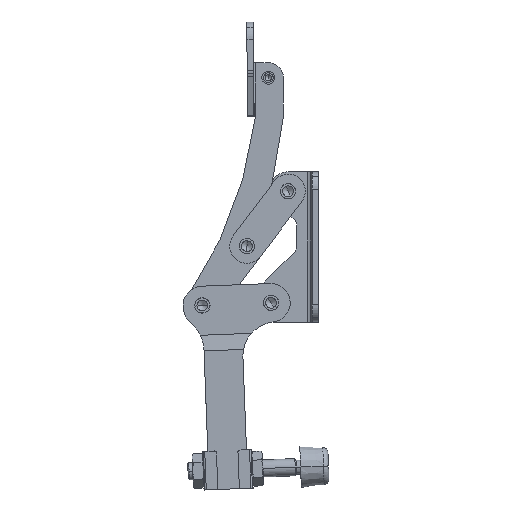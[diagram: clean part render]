
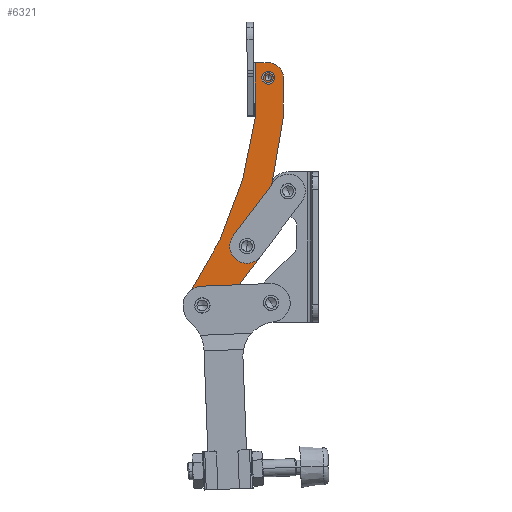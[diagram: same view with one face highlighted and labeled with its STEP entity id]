
A CAD part, left-side view. The second image highlights one B-rep face of the part: STEP entity #6321.
In plain terms, the highlighted free-form (B-spline) face has degree [1, 1] with [2, 2] control points.
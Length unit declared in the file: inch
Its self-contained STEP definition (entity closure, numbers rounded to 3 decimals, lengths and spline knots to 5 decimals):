
#5178=CARTESIAN_POINT('',(3.4235,0.97471,-0.0897));
#5179=VERTEX_POINT('',#5178);
#5188=CARTESIAN_POINT('',(3.2005,0.97471,-0.0897));
#5189=VERTEX_POINT('',#5188);
#5190=CARTESIAN_POINT('',(3.312,0.97471,-0.0897));
#5191=DIRECTION('',(0.0,0.0,-1.0));
#5192=DIRECTION('',(1.0,0.0,0.0));
#5193=AXIS2_PLACEMENT_3D('',#5190,#5191,#5192);
#5194=CIRCLE('',#5193,0.1115);
#5195=EDGE_CURVE('',#5179,#5189,#5194,.T.);
#5241=CARTESIAN_POINT('',(2.56279,0.32234,-0.0897));
#5242=VERTEX_POINT('',#5241);
#5251=CARTESIAN_POINT('',(2.33979,0.32234,-0.0897));
#5252=VERTEX_POINT('',#5251);
#5253=CARTESIAN_POINT('',(2.45129,0.32234,-0.0897));
#5254=DIRECTION('',(0.0,0.0,-1.0));
#5255=DIRECTION('',(1.0,0.0,0.0));
#5256=AXIS2_PLACEMENT_3D('',#5253,#5254,#5255);
#5257=CIRCLE('',#5256,0.1115);
#5258=EDGE_CURVE('',#5242,#5252,#5257,.T.);
#5285=CARTESIAN_POINT('',(0.046,0.0,-0.0897));
#5286=VERTEX_POINT('',#5285);
#5302=CARTESIAN_POINT('',(-0.046,0.,-0.0897));
#5303=VERTEX_POINT('',#5302);
#5310=CARTESIAN_POINT('',(0.0,0.0,-0.0897));
#5311=DIRECTION('',(0.0,0.0,-1.0));
#5312=DIRECTION('',(1.0,0.0,0.0));
#5313=AXIS2_PLACEMENT_3D('',#5310,#5311,#5312);
#5314=CIRCLE('',#5313,0.046);
#5315=EDGE_CURVE('',#5303,#5286,#5314,.T.);
#5919=CARTESIAN_POINT('',(0.562,0.18804,-0.0897));
#5920=VERTEX_POINT('',#5919);
#6208=CARTESIAN_POINT('',(-0.219,0.18804,-0.0897));
#6209=VERTEX_POINT('',#6208);
#6210=CARTESIAN_POINT('',(-0.219,0.18804,-0.0897));
#6211=DIRECTION('',(1.0,0.0,0.0));
#6212=VECTOR('',#6211,0.781);
#6213=LINE('',#6210,#6212);
#6214=EDGE_CURVE('',#6209,#5920,#6213,.T.);
#6226=CARTESIAN_POINT('',(-0.219,1.22471,-0.0897));
#6227=CARTESIAN_POINT('',(3.562,1.22471,-0.0897));
#6228=CARTESIAN_POINT('',(-0.219,-0.21896,-0.0897));
#6229=CARTESIAN_POINT('',(3.562,-0.21896,-0.0897));
#6230=B_SPLINE_SURFACE_WITH_KNOTS('',1,1,((#6226,#6228),(#6227,#6229)),.UNSPECIFIED.,.F.,.F.,.U.,(2,2),(2,2),(0.0,3.781),(0.0,1.44367),.UNSPECIFIED.);
#6231=ORIENTED_EDGE('',*,*,#6214,.T.);
#6232=CARTESIAN_POINT('',(3.17068,1.18093,-0.0897));
#6233=VERTEX_POINT('',#6232);
#6234=CARTESIAN_POINT('',(-0.188,6.08197,-0.0897));
#6235=DIRECTION('',(0.0,0.0,1.));
#6236=DIRECTION('',(-0.126,0.992,0.0));
#6237=AXIS2_PLACEMENT_3D('',#6234,#6235,#6236);
#6238=CIRCLE('',#6237,5.94146);
#6239=EDGE_CURVE('',#5920,#6233,#6238,.T.);
#6240=ORIENTED_EDGE('',*,*,#6239,.T.);
#6241=CARTESIAN_POINT('',(3.46301,0.77547,-0.0897));
#6242=VERTEX_POINT('',#6241);
#6243=CARTESIAN_POINT('',(3.312,0.97471,-0.0897));
#6244=DIRECTION('',(0.0,0.0,-1.));
#6245=DIRECTION('',(0.604,-0.797,0.0));
#6246=AXIS2_PLACEMENT_3D('',#6243,#6244,#6245);
#6247=CIRCLE('',#6246,0.25);
#6248=EDGE_CURVE('',#6233,#6242,#6247,.T.);
#6249=ORIENTED_EDGE('',*,*,#6248,.T.);
#6250=CARTESIAN_POINT('',(2.63273,0.14616,-0.0897));
#6251=VERTEX_POINT('',#6250);
#6252=CARTESIAN_POINT('',(3.46301,0.77547,-0.0897));
#6253=DIRECTION('',(-0.797,-0.604,0.0));
#6254=VECTOR('',#6253,1.04182);
#6255=LINE('',#6252,#6254);
#6256=EDGE_CURVE('',#6242,#6251,#6255,.T.);
#6257=ORIENTED_EDGE('',*,*,#6256,.T.);
#6258=CARTESIAN_POINT('',(0.562,-0.21896,-0.0897));
#6259=VERTEX_POINT('',#6258);
#6260=CARTESIAN_POINT('',(2.63273,0.14616,-0.0897));
#6261=DIRECTION('',(-0.985,-0.174,0.0));
#6262=VECTOR('',#6261,2.10268);
#6263=LINE('',#6260,#6262);
#6264=EDGE_CURVE('',#6251,#6259,#6263,.T.);
#6265=ORIENTED_EDGE('',*,*,#6264,.T.);
#6266=CARTESIAN_POINT('',(-0.00413,-0.21896,-0.0897));
#6267=VERTEX_POINT('',#6266);
#6268=CARTESIAN_POINT('',(0.562,-0.21896,-0.0897));
#6269=DIRECTION('',(-1.0,0.0,0.0));
#6270=VECTOR('',#6269,0.56613);
#6271=LINE('',#6268,#6270);
#6272=EDGE_CURVE('',#6259,#6267,#6271,.T.);
#6273=ORIENTED_EDGE('',*,*,#6272,.T.);
#6274=CARTESIAN_POINT('',(-0.219,0.0,-0.0897));
#6275=VERTEX_POINT('',#6274);
#6276=CARTESIAN_POINT('',(0.0,0.0,-0.0897));
#6277=DIRECTION('',(0.0,0.0,-1.0));
#6278=DIRECTION('',(-1.0,0.0,0.0));
#6279=AXIS2_PLACEMENT_3D('',#6276,#6277,#6278);
#6280=CIRCLE('',#6279,0.219);
#6281=EDGE_CURVE('',#6267,#6275,#6280,.T.);
#6282=ORIENTED_EDGE('',*,*,#6281,.T.);
#6283=CARTESIAN_POINT('',(-0.219,0.0,-0.0897));
#6284=DIRECTION('',(0.0,1.0,0.0));
#6285=VECTOR('',#6284,0.18804);
#6286=LINE('',#6283,#6285);
#6287=EDGE_CURVE('',#6275,#6209,#6286,.T.);
#6288=ORIENTED_EDGE('',*,*,#6287,.T.);
#6289=EDGE_LOOP('',(#6231,#6240,#6249,#6257,#6265,#6273,#6282,#6288));
#6290=FACE_OUTER_BOUND('',#6289,.T.);
#6291=CARTESIAN_POINT('',(3.312,0.97471,-0.0897));
#6292=DIRECTION('',(0.0,0.0,-1.0));
#6293=DIRECTION('',(1.0,0.0,0.0));
#6294=AXIS2_PLACEMENT_3D('',#6291,#6292,#6293);
#6295=CIRCLE('',#6294,0.1115);
#6296=EDGE_CURVE('',#5189,#5179,#6295,.T.);
#6297=ORIENTED_EDGE('',*,*,#6296,.F.);
#6298=ORIENTED_EDGE('',*,*,#5195,.F.);
#6299=EDGE_LOOP('',(#6297,#6298));
#6300=FACE_BOUND('',#6299,.T.);
#6301=CARTESIAN_POINT('',(2.45129,0.32234,-0.0897));
#6302=DIRECTION('',(0.0,0.0,-1.0));
#6303=DIRECTION('',(1.0,0.0,0.0));
#6304=AXIS2_PLACEMENT_3D('',#6301,#6302,#6303);
#6305=CIRCLE('',#6304,0.1115);
#6306=EDGE_CURVE('',#5252,#5242,#6305,.T.);
#6307=ORIENTED_EDGE('',*,*,#6306,.F.);
#6308=ORIENTED_EDGE('',*,*,#5258,.F.);
#6309=EDGE_LOOP('',(#6307,#6308));
#6310=FACE_BOUND('',#6309,.T.);
#6311=CARTESIAN_POINT('',(0.0,0.0,-0.0897));
#6312=DIRECTION('',(0.0,0.0,-1.0));
#6313=DIRECTION('',(1.0,0.0,0.0));
#6314=AXIS2_PLACEMENT_3D('',#6311,#6312,#6313);
#6315=CIRCLE('',#6314,0.046);
#6316=EDGE_CURVE('',#5286,#5303,#6315,.T.);
#6317=ORIENTED_EDGE('',*,*,#6316,.F.);
#6318=ORIENTED_EDGE('',*,*,#5315,.F.);
#6319=EDGE_LOOP('',(#6317,#6318));
#6320=FACE_BOUND('',#6319,.T.);
#6321=ADVANCED_FACE('',(#6290,#6300,#6310,#6320),#6230,.T.);
